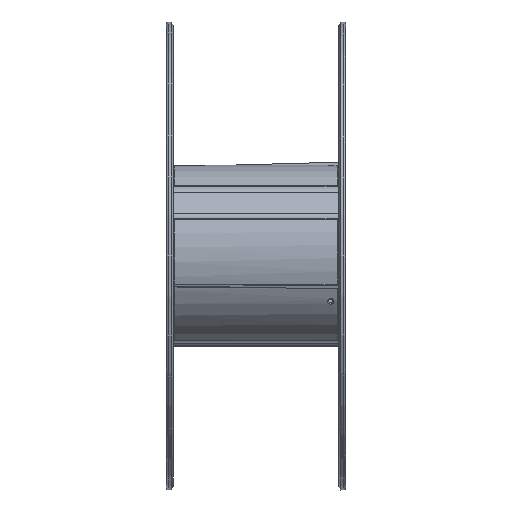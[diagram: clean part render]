
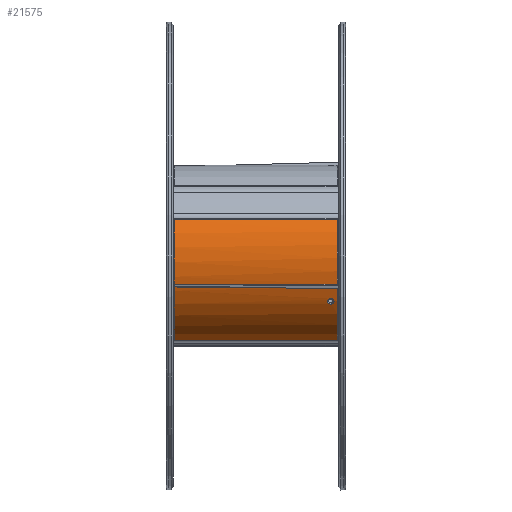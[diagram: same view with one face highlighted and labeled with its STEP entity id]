
A CAD part, left-side view. The second image highlights one B-rep face of the part: STEP entity #21575.
In plain terms, the highlighted cylindrical face has radius 49.2 mm (diameter 98.4 mm), a partial arc.
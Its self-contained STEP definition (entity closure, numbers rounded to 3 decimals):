
#4728=AXIS2_PLACEMENT_3D('Circle Axis2P3D',#4726,#4727,$) ;
#4797=AXIS2_PLACEMENT_3D('Circle Axis2P3D',#4795,#4796,$) ;
#21180=AXIS2_PLACEMENT_3D('Cylinder Axis2P3D',#21177,#21178,#21179) ;
#21532=AXIS2_PLACEMENT_3D('Circle Axis2P3D',#21530,#21531,$) ;
#21551=AXIS2_PLACEMENT_3D('Circle Axis2P3D',#21549,#21550,$) ;
#4721=CARTESIAN_POINT('Vertex',(-46.241,-1.4,-16.806)) ;
#4726=CARTESIAN_POINT('Axis2P3D Location',(0.,-1.4,0.)) ;
#4730=CARTESIAN_POINT('Vertex',(-17.658,-1.4,-45.922)) ;
#4767=CARTESIAN_POINT('Vertex',(-46.731,-1.4,-15.389)) ;
#4792=CARTESIAN_POINT('Vertex',(-44.958,-1.4,19.986)) ;
#4795=CARTESIAN_POINT('Axis2P3D Location',(0.,-1.4,0.)) ;
#8956=CARTESIAN_POINT('Vertex',(-42.608,3.75,-24.6)) ;
#8960=CARTESIAN_POINT('Control Point',(-42.608,3.75,-24.6)) ;
#8961=CARTESIAN_POINT('Control Point',(-42.521,3.75,-24.752)) ;
#8962=CARTESIAN_POINT('Control Point',(-42.433,3.729,-24.903)) ;
#8963=CARTESIAN_POINT('Control Point',(-42.345,3.686,-25.051)) ;
#8964=CARTESIAN_POINT('Control Point',(-42.14,3.53,-25.397)) ;
#8965=CARTESIAN_POINT('Control Point',(-41.962,3.261,-25.689)) ;
#8966=CARTESIAN_POINT('Control Point',(-41.872,3.066,-25.834)) ;
#8967=CARTESIAN_POINT('Control Point',(-41.768,2.737,-26.001)) ;
#8968=CARTESIAN_POINT('Control Point',(-41.715,2.372,-26.087)) ;
#8969=CARTESIAN_POINT('Control Point',(-41.703,2.249,-26.106)) ;
#8970=CARTESIAN_POINT('Control Point',(-41.691,1.99,-26.125)) ;
#8971=CARTESIAN_POINT('Control Point',(-41.704,1.732,-26.104)) ;
#8972=CARTESIAN_POINT('Control Point',(-41.718,1.599,-26.082)) ;
#8973=CARTESIAN_POINT('Control Point',(-41.773,1.252,-25.994)) ;
#8974=CARTESIAN_POINT('Control Point',(-41.873,0.94,-25.832)) ;
#8975=CARTESIAN_POINT('Control Point',(-41.952,0.766,-25.704)) ;
#8976=CARTESIAN_POINT('Control Point',(-42.1,0.529,-25.462)) ;
#8977=CARTESIAN_POINT('Control Point',(-42.27,0.372,-25.178)) ;
#8978=CARTESIAN_POINT('Control Point',(-42.337,0.325,-25.065)) ;
#8979=CARTESIAN_POINT('Control Point',(-42.432,0.278,-24.904)) ;
#8980=CARTESIAN_POINT('Control Point',(-42.528,0.256,-24.739)) ;
#8981=CARTESIAN_POINT('Control Point',(-42.555,0.252,-24.693)) ;
#8982=CARTESIAN_POINT('Control Point',(-42.582,0.25,-24.646)) ;
#8983=CARTESIAN_POINT('Control Point',(-42.608,0.25,-24.6)) ;
#8984=CARTESIAN_POINT('Vertex',(-42.608,0.25,-24.6)) ;
#9087=CARTESIAN_POINT('Control Point',(-42.608,0.25,-24.6)) ;
#9088=CARTESIAN_POINT('Control Point',(-42.676,0.25,-24.483)) ;
#9089=CARTESIAN_POINT('Control Point',(-42.743,0.263,-24.365)) ;
#9090=CARTESIAN_POINT('Control Point',(-42.81,0.289,-24.249)) ;
#9091=CARTESIAN_POINT('Control Point',(-42.939,0.366,-24.019)) ;
#9092=CARTESIAN_POINT('Control Point',(-43.058,0.492,-23.805)) ;
#9093=CARTESIAN_POINT('Control Point',(-43.115,0.568,-23.702)) ;
#9094=CARTESIAN_POINT('Control Point',(-43.235,0.768,-23.483)) ;
#9095=CARTESIAN_POINT('Control Point',(-43.33,1.019,-23.306)) ;
#9096=CARTESIAN_POINT('Control Point',(-43.374,1.175,-23.223)) ;
#9097=CARTESIAN_POINT('Control Point',(-43.443,1.506,-23.095)) ;
#9098=CARTESIAN_POINT('Control Point',(-43.469,1.864,-23.045)) ;
#9099=CARTESIAN_POINT('Control Point',(-43.471,2.044,-23.041)) ;
#9100=CARTESIAN_POINT('Control Point',(-43.456,2.359,-23.07)) ;
#9101=CARTESIAN_POINT('Control Point',(-43.408,2.658,-23.16)) ;
#9102=CARTESIAN_POINT('Control Point',(-43.381,2.783,-23.21)) ;
#9103=CARTESIAN_POINT('Control Point',(-43.316,3.021,-23.332)) ;
#9104=CARTESIAN_POINT('Control Point',(-43.23,3.228,-23.491)) ;
#9105=CARTESIAN_POINT('Control Point',(-43.181,3.323,-23.58)) ;
#9106=CARTESIAN_POINT('Control Point',(-43.076,3.492,-23.773)) ;
#9107=CARTESIAN_POINT('Control Point',(-42.955,3.616,-23.991)) ;
#9108=CARTESIAN_POINT('Control Point',(-42.891,3.665,-24.105)) ;
#9109=CARTESIAN_POINT('Control Point',(-42.796,3.717,-24.273)) ;
#9110=CARTESIAN_POINT('Control Point',(-42.698,3.742,-24.444)) ;
#9111=CARTESIAN_POINT('Control Point',(-42.668,3.747,-24.496)) ;
#9112=CARTESIAN_POINT('Control Point',(-42.638,3.75,-24.548)) ;
#9113=CARTESIAN_POINT('Control Point',(-42.608,3.75,-24.6)) ;
#21177=CARTESIAN_POINT('Axis2P3D Location',(0.,-6.,0.)) ;
#21523=CARTESIAN_POINT('Line Origine',(-44.958,42.6,19.986)) ;
#21527=CARTESIAN_POINT('Vertex',(-44.958,87.1,19.986)) ;
#21530=CARTESIAN_POINT('Axis2P3D Location',(0.,87.1,0.)) ;
#21534=CARTESIAN_POINT('Vertex',(-17.658,87.1,-45.922)) ;
#21537=CARTESIAN_POINT('Line Origine',(-17.658,42.6,-45.922)) ;
#21542=CARTESIAN_POINT('Line Origine',(-46.241,42.6,-16.806)) ;
#21546=CARTESIAN_POINT('Vertex',(-46.241,86.857,-16.806)) ;
#21549=CARTESIAN_POINT('Axis2P3D Location',(0.,86.857,0.)) ;
#21553=CARTESIAN_POINT('Vertex',(-46.731,86.857,-15.389)) ;
#21556=CARTESIAN_POINT('Line Origine',(-46.731,42.6,-15.389)) ;
#4727=DIRECTION('Axis2P3D Direction',(-0.,1.,0.)) ;
#4796=DIRECTION('Axis2P3D Direction',(-0.,1.,0.)) ;
#21178=DIRECTION('Axis2P3D Direction',(0.,1.,0.)) ;
#21179=DIRECTION('Axis2P3D XDirection',(0.,0.,1.)) ;
#21524=DIRECTION('Vector Direction',(0.,1.,0.)) ;
#21531=DIRECTION('Axis2P3D Direction',(0.,1.,0.)) ;
#21538=DIRECTION('Vector Direction',(0.,1.,0.)) ;
#21543=DIRECTION('Vector Direction',(0.,1.,0.)) ;
#21550=DIRECTION('Axis2P3D Direction',(0.,1.,0.)) ;
#21557=DIRECTION('Vector Direction',(0.,1.,0.)) ;
#21525=VECTOR('Line Direction',#21524,1.) ;
#21539=VECTOR('Line Direction',#21538,1.) ;
#21544=VECTOR('Line Direction',#21543,1.) ;
#21558=VECTOR('Line Direction',#21557,1.) ;
#21562=ORIENTED_EDGE('',*,*,#4799,.F.) ;
#21563=ORIENTED_EDGE('',*,*,#21529,.T.) ;
#21564=ORIENTED_EDGE('',*,*,#21536,.T.) ;
#21565=ORIENTED_EDGE('',*,*,#21541,.T.) ;
#21566=ORIENTED_EDGE('',*,*,#4732,.F.) ;
#21567=ORIENTED_EDGE('',*,*,#21548,.F.) ;
#21568=ORIENTED_EDGE('',*,*,#21555,.T.) ;
#21569=ORIENTED_EDGE('',*,*,#21560,.T.) ;
#21572=ORIENTED_EDGE('',*,*,#9114,.F.) ;
#21573=ORIENTED_EDGE('',*,*,#8986,.F.) ;
#21574=FACE_BOUND('',#21571,.T.) ;
#21575=ADVANCED_FACE('Bok_1',(#21570,#21574),#21181,.T.) ;
#8959=B_SPLINE_CURVE_WITH_KNOTS('',5,(#8960,#8961,#8962,#8963,#8964,#8965,#8966,#8967,#8968,#8969,#8970,#8971,#8972,#8973,#8974,#8975,#8976,#8977,#8978,#8979,#8980,#8981,#8982,#8983),.UNSPECIFIED.,.F.,.U.,(6,3,3,3,3,3,3,6),(0.,1.077,2.633,3.397,4.222,5.613,6.465,6.794),.UNSPECIFIED.) ;
#9086=B_SPLINE_CURVE_WITH_KNOTS('',5,(#9087,#9088,#9089,#9090,#9091,#9092,#9093,#9094,#9095,#9096,#9097,#9098,#9099,#9100,#9101,#9102,#9103,#9104,#9105,#9106,#9107,#9108,#9109,#9110,#9111,#9112,#9113),.UNSPECIFIED.,.F.,.U.,(6,3,3,3,3,3,3,3,6),(6.794,7.627,8.479,9.586,10.684,11.518,12.367,13.219,13.588),.UNSPECIFIED.) ;
#4729=CIRCLE('generated circle',#4728,49.2) ;
#4798=CIRCLE('generated circle',#4797,49.2) ;
#21533=CIRCLE('generated circle',#21532,49.2) ;
#21552=CIRCLE('generated circle',#21551,49.2) ;
#21181=CYLINDRICAL_SURFACE('generated cylinder',#21180,49.2) ;
#4732=EDGE_CURVE('',#4722,#4731,#4729,.F.) ;
#4799=EDGE_CURVE('',#4793,#4768,#4798,.F.) ;
#8986=EDGE_CURVE('',#8957,#8985,#8959,.T.) ;
#9114=EDGE_CURVE('',#8985,#8957,#9086,.T.) ;
#21529=EDGE_CURVE('',#4793,#21528,#21526,.T.) ;
#21536=EDGE_CURVE('',#21528,#21535,#21533,.F.) ;
#21541=EDGE_CURVE('',#21535,#4731,#21540,.F.) ;
#21548=EDGE_CURVE('',#21547,#4722,#21545,.F.) ;
#21555=EDGE_CURVE('',#21547,#21554,#21552,.T.) ;
#21560=EDGE_CURVE('',#21554,#4768,#21559,.F.) ;
#21561=EDGE_LOOP('',(#21562,#21563,#21564,#21565,#21566,#21567,#21568,#21569)) ;
#21571=EDGE_LOOP('',(#21572,#21573)) ;
#21570=FACE_OUTER_BOUND('',#21561,.T.) ;
#21526=LINE('Line',#21523,#21525) ;
#21540=LINE('Line',#21537,#21539) ;
#21545=LINE('Line',#21542,#21544) ;
#21559=LINE('Line',#21556,#21558) ;
#4722=VERTEX_POINT('',#4721) ;
#4731=VERTEX_POINT('',#4730) ;
#4768=VERTEX_POINT('',#4767) ;
#4793=VERTEX_POINT('',#4792) ;
#8957=VERTEX_POINT('',#8956) ;
#8985=VERTEX_POINT('',#8984) ;
#21528=VERTEX_POINT('',#21527) ;
#21535=VERTEX_POINT('',#21534) ;
#21547=VERTEX_POINT('',#21546) ;
#21554=VERTEX_POINT('',#21553) ;
